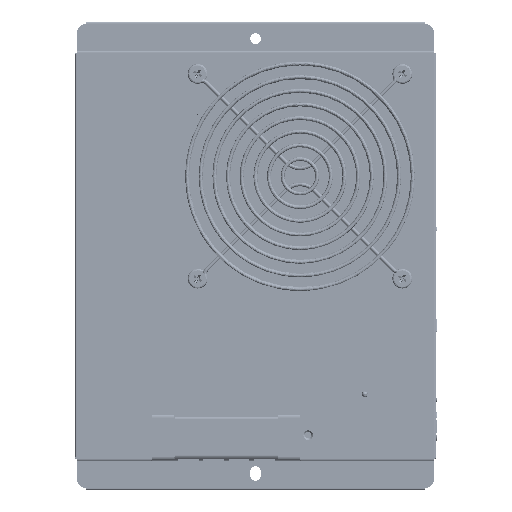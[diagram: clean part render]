
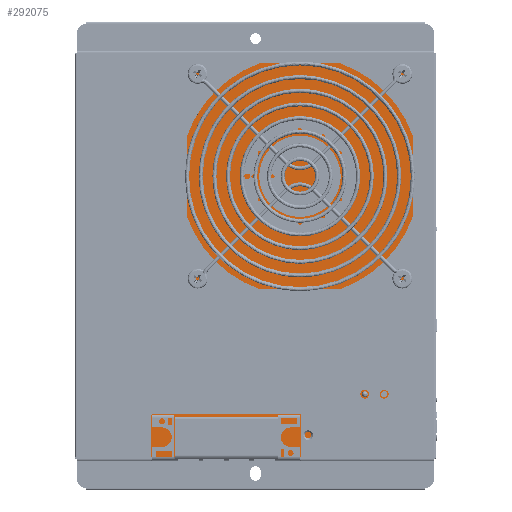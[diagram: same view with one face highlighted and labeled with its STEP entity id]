
A CAD part, top view. The second image highlights one B-rep face of the part: STEP entity #292075.
In plain terms, the highlighted planar face has unit normal (0, 0, 1).
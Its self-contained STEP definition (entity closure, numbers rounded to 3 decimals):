
#1472 = FACE_OUTER_BOUND ( 'NONE', #251155, .T. ) ;
#3968 = CARTESIAN_POINT ( 'NONE',  ( -124.486, 87.854, 27.79 ) ) ;
#9039 = CARTESIAN_POINT ( 'NONE',  ( -124.486, -118.906, 27.79 ) ) ;
#10936 = DIRECTION ( 'NONE',  ( 0., 1., 0. ) ) ;
#16076 = EDGE_CURVE ( 'NONE', #262012, #80853, #304958, .T. ) ;
#21663 = LINE ( 'NONE', #92025, #50334 ) ;
#41650 = EDGE_CURVE ( 'NONE', #98784, #92939, #84052, .T. ) ;
#50334 = VECTOR ( 'NONE', #251524, 1000. ) ;
#73332 = EDGE_CURVE ( 'NONE', #80853, #92939, #21663, .T. ) ;
#80853 = VERTEX_POINT ( 'NONE', #249279 ) ;
#84052 = LINE ( 'NONE', #206730, #137500 ) ;
#92025 = CARTESIAN_POINT ( 'NONE',  ( 58.904, 87.854, 27.79 ) ) ;
#92939 = VERTEX_POINT ( 'NONE', #166651 ) ;
#96495 = DIRECTION ( 'NONE',  ( 1., 0., 0. ) ) ;
#98784 = VERTEX_POINT ( 'NONE', #245470 ) ;
#99790 = VECTOR ( 'NONE', #167508, 1000. ) ;
#105134 = DIRECTION ( 'NONE',  ( -1., 0., 0. ) ) ;
#105946 = ORIENTED_EDGE ( 'NONE', *, *, #16076, .T. ) ;
#137500 = VECTOR ( 'NONE', #96495, 1000. ) ;
#166651 = CARTESIAN_POINT ( 'NONE',  ( 58.904, 87.854, 27.79 ) ) ;
#167508 = DIRECTION ( 'NONE',  ( 1., 0., 0. ) ) ;
#173319 = CARTESIAN_POINT ( 'NONE',  ( -124.486, -118.906, 27.79 ) ) ;
#206730 = CARTESIAN_POINT ( 'NONE',  ( -124.486, 87.854, 27.79 ) ) ;
#216527 = CARTESIAN_POINT ( 'NONE',  ( -124.486, 87.854, 27.79 ) ) ;
#245470 = CARTESIAN_POINT ( 'NONE',  ( -124.486, 87.854, 27.79 ) ) ;
#247842 = AXIS2_PLACEMENT_3D ( 'NONE', #3968, #261197, #105134 ) ;
#249279 = CARTESIAN_POINT ( 'NONE',  ( 58.904, -118.906, 27.79 ) ) ;
#251155 = EDGE_LOOP ( 'NONE', ( #293385, #322495, #302402, #105946 ) ) ;
#251524 = DIRECTION ( 'NONE',  ( 0., 1., 0. ) ) ;
#255718 = VECTOR ( 'NONE', #10936, 1000. ) ;
#261197 = DIRECTION ( 'NONE',  ( 0., 0., -1. ) ) ;
#262012 = VERTEX_POINT ( 'NONE', #173319 ) ;
#280430 = LINE ( 'NONE', #216527, #255718 ) ;
#292075 = ADVANCED_FACE ( 'NONE', ( #1472 ), #340471, .F. ) ;
#293385 = ORIENTED_EDGE ( 'NONE', *, *, #73332, .T. ) ;
#298783 = EDGE_CURVE ( 'NONE', #262012, #98784, #280430, .T. ) ;
#302402 = ORIENTED_EDGE ( 'NONE', *, *, #298783, .F. ) ;
#304958 = LINE ( 'NONE', #9039, #99790 ) ;
#322495 = ORIENTED_EDGE ( 'NONE', *, *, #41650, .F. ) ;
#340471 = PLANE ( 'NONE',  #247842 ) ;
